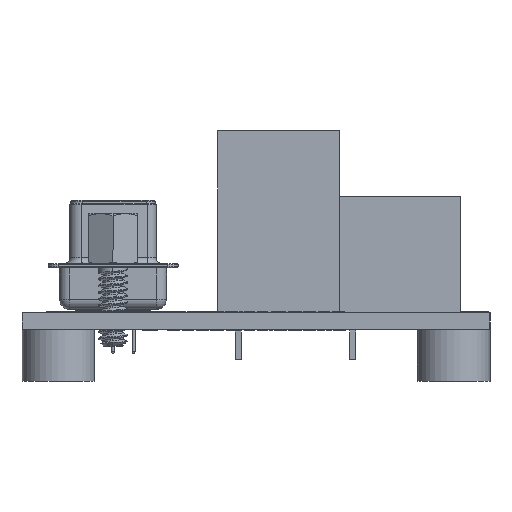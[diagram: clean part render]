
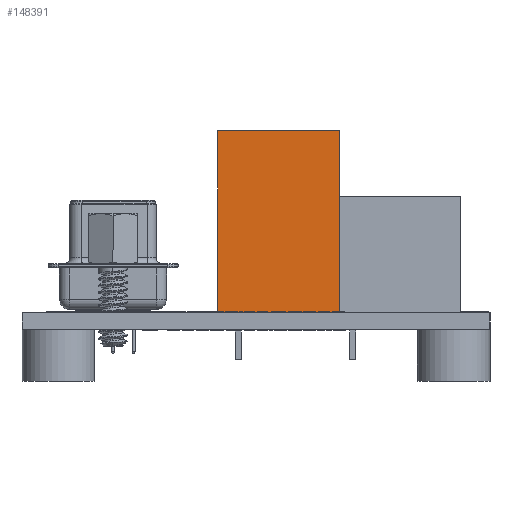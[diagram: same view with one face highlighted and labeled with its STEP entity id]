
A CAD part, left-side view. The second image highlights one B-rep face of the part: STEP entity #148391.
In plain terms, the highlighted planar face has unit normal (-1, 0, 0).
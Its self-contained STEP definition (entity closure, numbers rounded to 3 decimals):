
#148053 = VERTEX_POINT('',#148054);
#148054 = CARTESIAN_POINT('',(-4.25,0.,11.2));
#148062 = EDGE_CURVE('',#148053,#148063,#148065,.T.);
#148063 = VERTEX_POINT('',#148064);
#148064 = CARTESIAN_POINT('',(-4.25,0.,17.5));
#148065 = LINE('',#148066,#148067);
#148066 = CARTESIAN_POINT('',(-4.25,0.,0.));
#148067 = VECTOR('',#148068,1.);
#148068 = DIRECTION('',(0.,0.,1.));
#148272 = EDGE_CURVE('',#148273,#148063,#148275,.T.);
#148273 = VERTEX_POINT('',#148274);
#148274 = CARTESIAN_POINT('',(-4.25,11.7,17.5));
#148275 = LINE('',#148276,#148277);
#148276 = CARTESIAN_POINT('',(-4.25,11.7,17.5));
#148277 = VECTOR('',#148278,1.);
#148278 = DIRECTION('',(0.,-1.,0.));
#148391 = ADVANCED_FACE('',(#148392),#148418,.F.);
#148392 = FACE_BOUND('',#148393,.F.);
#148393 = EDGE_LOOP('',(#148394,#148402,#148403,#148404,#148412));
#148394 = ORIENTED_EDGE('',*,*,#148395,.T.);
#148395 = EDGE_CURVE('',#148396,#148273,#148398,.T.);
#148396 = VERTEX_POINT('',#148397);
#148397 = CARTESIAN_POINT('',(-4.25,11.7,0.));
#148398 = LINE('',#148399,#148400);
#148399 = CARTESIAN_POINT('',(-4.25,11.7,0.));
#148400 = VECTOR('',#148401,1.);
#148401 = DIRECTION('',(0.,0.,1.));
#148402 = ORIENTED_EDGE('',*,*,#148272,.T.);
#148403 = ORIENTED_EDGE('',*,*,#148062,.F.);
#148404 = ORIENTED_EDGE('',*,*,#148405,.F.);
#148405 = EDGE_CURVE('',#148406,#148053,#148408,.T.);
#148406 = VERTEX_POINT('',#148407);
#148407 = CARTESIAN_POINT('',(-4.25,0.,0.));
#148408 = LINE('',#148409,#148410);
#148409 = CARTESIAN_POINT('',(-4.25,0.,0.));
#148410 = VECTOR('',#148411,1.);
#148411 = DIRECTION('',(0.,0.,1.));
#148412 = ORIENTED_EDGE('',*,*,#148413,.F.);
#148413 = EDGE_CURVE('',#148396,#148406,#148414,.T.);
#148414 = LINE('',#148415,#148416);
#148415 = CARTESIAN_POINT('',(-4.25,11.7,0.));
#148416 = VECTOR('',#148417,1.);
#148417 = DIRECTION('',(0.,-1.,0.));
#148418 = PLANE('',#148419);
#148419 = AXIS2_PLACEMENT_3D('',#148420,#148421,#148422);
#148420 = CARTESIAN_POINT('',(-4.25,11.7,0.));
#148421 = DIRECTION('',(1.,0.,0.));
#148422 = DIRECTION('',(0.,-1.,0.));
